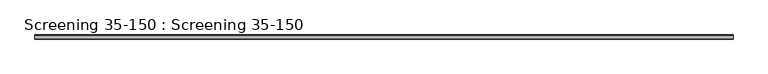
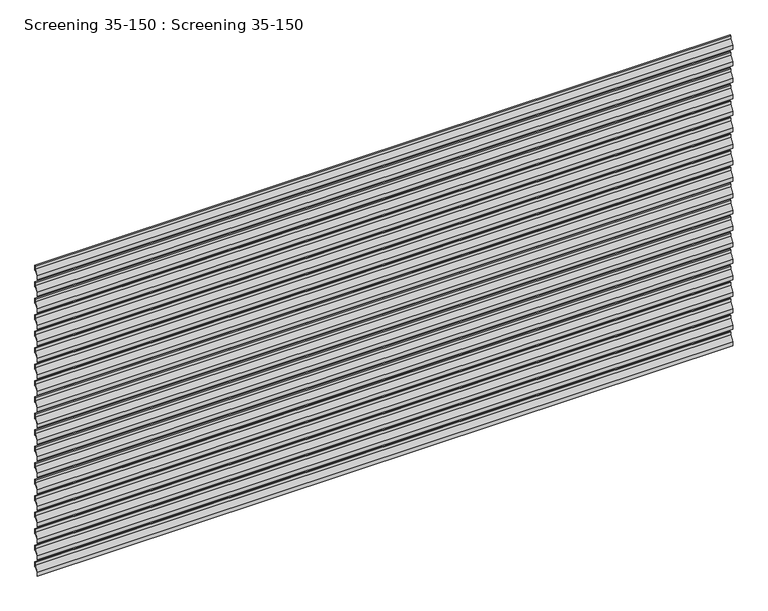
"""IFC4 building model written with IfcOpenShell, lengths in millimetres: plate geometry, Screening 35-150 : Screening 35-150."""

from ifc_helpers import new_model, si_unit, frame, origin, place, context, project, spatial, polyline, outline, extrude, source, transform, mapped, element, save


def screening_35_150_screening_35_150_a8d9859b(model_context):
    return source(origin(), model_context, "Body", "SweptSolid", [
        extrude(outline(polyline([(-34.9638304, 2712.1), (-34.9638304, 2748.1958995), (-4.35, 2791.9800402), (-4.35, 2819.1451224), (0.0, 2823.4298892), (0.0, 2776.6482493), (-13.0819089, 2776.6482493), (-33.4, 2747.5767062), (-33.4, 2712.1), (-34.9638304, 2712.1)])), frame((-3000.0, 0.0, 0.0), z_axis=(1.0, 0.0, 0.0), x_axis=(0.0, 1.0, 0.0)), (0.0, 0.0, 1.0), 6000.0),
        extrude(outline(polyline([(-34.9638304, 2562.1), (-34.9638304, 2598.1958995), (-4.35, 2641.9800402), (-4.35, 2669.1451224), (0.0, 2673.4298892), (0.0, 2626.6482493), (-13.0819089, 2626.6482493), (-33.4, 2597.5767062), (-33.4, 2562.1), (-34.9638304, 2562.1)])), frame((-3000.0, 0.0, 0.0), z_axis=(1.0, 0.0, 0.0), x_axis=(0.0, 1.0, 0.0)), (0.0, 0.0, 1.0), 6000.0),
        extrude(outline(polyline([(-34.9638304, 2412.1), (-34.9638304, 2448.1958995), (-4.35, 2491.9800402), (-4.35, 2519.1451224), (0.0, 2523.4298892), (0.0, 2476.6482493), (-13.0819089, 2476.6482493), (-33.4, 2447.5767062), (-33.4, 2412.1), (-34.9638304, 2412.1)])), frame((-3000.0, 0.0, 0.0), z_axis=(1.0, 0.0, 0.0), x_axis=(0.0, 1.0, 0.0)), (0.0, 0.0, 1.0), 6000.0),
        extrude(outline(polyline([(-34.9638304, 2262.1), (-34.9638304, 2298.1958995), (-4.35, 2341.9800402), (-4.35, 2369.1451224), (0.0, 2373.4298892), (0.0, 2326.6482493), (-13.0819089, 2326.6482493), (-33.4, 2297.5767062), (-33.4, 2262.1), (-34.9638304, 2262.1)])), frame((-3000.0, 0.0, 0.0), z_axis=(1.0, 0.0, 0.0), x_axis=(0.0, 1.0, 0.0)), (0.0, 0.0, 1.0), 6000.0),
        extrude(outline(polyline([(-34.9638304, 2112.1), (-34.9638304, 2148.1958995), (-4.35, 2191.9800402), (-4.35, 2219.1451224), (0.0, 2223.4298892), (0.0, 2176.6482493), (-13.0819089, 2176.6482493), (-33.4, 2147.5767062), (-33.4, 2112.1), (-34.9638304, 2112.1)])), frame((-3000.0, 0.0, 0.0), z_axis=(1.0, 0.0, 0.0), x_axis=(0.0, 1.0, 0.0)), (0.0, 0.0, 1.0), 6000.0),
        extrude(outline(polyline([(-34.9638304, 1962.1), (-34.9638304, 1998.1958995), (-4.35, 2041.9800402), (-4.35, 2069.1451224), (0.0, 2073.4298892), (0.0, 2026.6482493), (-13.0819089, 2026.6482493), (-33.4, 1997.5767062), (-33.4, 1962.1), (-34.9638304, 1962.1)])), frame((-3000.0, 0.0, 0.0), z_axis=(1.0, 0.0, 0.0), x_axis=(0.0, 1.0, 0.0)), (0.0, 0.0, 1.0), 6000.0),
        extrude(outline(polyline([(-34.9638304, 1812.1), (-34.9638304, 1848.1958995), (-4.35, 1891.9800402), (-4.35, 1919.1451224), (0.0, 1923.4298892), (0.0, 1876.6482493), (-13.0819089, 1876.6482493), (-33.4, 1847.5767062), (-33.4, 1812.1), (-34.9638304, 1812.1)])), frame((-3000.0, 0.0, 0.0), z_axis=(1.0, 0.0, 0.0), x_axis=(0.0, 1.0, 0.0)), (0.0, 0.0, 1.0), 6000.0),
        extrude(outline(polyline([(-34.9638304, 1662.1), (-34.9638304, 1698.1958995), (-4.35, 1741.9800402), (-4.35, 1769.1451224), (0.0, 1773.4298892), (0.0, 1726.6482493), (-13.0819089, 1726.6482493), (-33.4, 1697.5767062), (-33.4, 1662.1), (-34.9638304, 1662.1)])), frame((-3000.0, 0.0, 0.0), z_axis=(1.0, 0.0, 0.0), x_axis=(0.0, 1.0, 0.0)), (0.0, 0.0, 1.0), 6000.0),
        extrude(outline(polyline([(-34.9638304, 1512.1), (-34.9638304, 1548.1958995), (-4.35, 1591.9800402), (-4.35, 1619.1451224), (0.0, 1623.4298892), (0.0, 1576.6482493), (-13.0819089, 1576.6482493), (-33.4, 1547.5767062), (-33.4, 1512.1), (-34.9638304, 1512.1)])), frame((-3000.0, 0.0, 0.0), z_axis=(1.0, 0.0, 0.0), x_axis=(0.0, 1.0, 0.0)), (0.0, 0.0, 1.0), 6000.0),
        extrude(outline(polyline([(-34.9638304, 1362.1), (-34.9638304, 1398.1958995), (-4.35, 1441.9800402), (-4.35, 1469.1451224), (0.0, 1473.4298892), (0.0, 1426.6482493), (-13.0819089, 1426.6482493), (-33.4, 1397.5767062), (-33.4, 1362.1), (-34.9638304, 1362.1)])), frame((-3000.0, 0.0, 0.0), z_axis=(1.0, 0.0, 0.0), x_axis=(0.0, 1.0, 0.0)), (0.0, 0.0, 1.0), 6000.0),
        extrude(outline(polyline([(-34.9638304, 1212.1), (-34.9638304, 1248.1958995), (-4.35, 1291.9800402), (-4.35, 1319.1451224), (0.0, 1323.4298892), (0.0, 1276.6482493), (-13.0819089, 1276.6482493), (-33.4, 1247.5767062), (-33.4, 1212.1), (-34.9638304, 1212.1)])), frame((-3000.0, 0.0, 0.0), z_axis=(1.0, 0.0, 0.0), x_axis=(0.0, 1.0, 0.0)), (0.0, 0.0, 1.0), 6000.0),
        extrude(outline(polyline([(-34.9638304, 1062.1), (-34.9638304, 1098.1958995), (-4.35, 1141.9800402), (-4.35, 1169.1451224), (0.0, 1173.4298892), (0.0, 1126.6482493), (-13.0819089, 1126.6482493), (-33.4, 1097.5767062), (-33.4, 1062.1), (-34.9638304, 1062.1)])), frame((-3000.0, 0.0, 0.0), z_axis=(1.0, 0.0, 0.0), x_axis=(0.0, 1.0, 0.0)), (0.0, 0.0, 1.0), 6000.0),
        extrude(outline(polyline([(-34.9638304, 912.1), (-34.9638304, 948.1958995), (-4.35, 991.9800402), (-4.35, 1019.1451224), (0.0, 1023.4298892), (0.0, 976.6482493), (-13.0819089, 976.6482493), (-33.4, 947.5767062), (-33.4, 912.1), (-34.9638304, 912.1)])), frame((-3000.0, 0.0, 0.0), z_axis=(1.0, 0.0, 0.0), x_axis=(0.0, 1.0, 0.0)), (0.0, 0.0, 1.0), 6000.0),
        extrude(outline(polyline([(-34.9638304, 762.1), (-34.9638304, 798.1958995), (-4.35, 841.9800402), (-4.35, 869.1451224), (0.0, 873.4298892), (0.0, 826.6482493), (-13.0819089, 826.6482493), (-33.4, 797.5767062), (-33.4, 762.1), (-34.9638304, 762.1)])), frame((-3000.0, 0.0, 0.0), z_axis=(1.0, 0.0, 0.0), x_axis=(0.0, 1.0, 0.0)), (0.0, 0.0, 1.0), 6000.0),
        extrude(outline(polyline([(-34.9638304, 612.1), (-34.9638304, 648.1958995), (-4.35, 691.9800402), (-4.35, 719.1451224), (0.0, 723.4298892), (0.0, 676.6482493), (-13.0819089, 676.6482493), (-33.4, 647.5767062), (-33.4, 612.1), (-34.9638304, 612.1)])), frame((-3000.0, 0.0, 0.0), z_axis=(1.0, 0.0, 0.0), x_axis=(0.0, 1.0, 0.0)), (0.0, 0.0, 1.0), 6000.0),
        extrude(outline(polyline([(-34.9638304, 462.1), (-34.9638304, 498.1958995), (-4.35, 541.9800402), (-4.35, 569.1451224), (0.0, 573.4298892), (0.0, 526.6482493), (-13.0819089, 526.6482493), (-33.4, 497.5767062), (-33.4, 462.1), (-34.9638304, 462.1)])), frame((-3000.0, 0.0, 0.0), z_axis=(1.0, 0.0, 0.0), x_axis=(0.0, 1.0, 0.0)), (0.0, 0.0, 1.0), 6000.0),
        extrude(outline(polyline([(-34.9638304, 312.1), (-34.9638304, 348.1958995), (-4.35, 391.9800402), (-4.35, 419.1451224), (0.0, 423.4298892), (0.0, 376.6482493), (-13.0819089, 376.6482493), (-33.4, 347.5767062), (-33.4, 312.1), (-34.9638304, 312.1)])), frame((-3000.0, 0.0, 0.0), z_axis=(1.0, 0.0, 0.0), x_axis=(0.0, 1.0, 0.0)), (0.0, 0.0, 1.0), 6000.0),
        extrude(outline(polyline([(-34.9638304, 162.1), (-34.9638304, 198.1958995), (-4.35, 241.9800402), (-4.35, 269.1451224), (0.0, 273.4298892), (0.0, 226.6482493), (-13.0819089, 226.6482493), (-33.4, 197.5767062), (-33.4, 162.1), (-34.9638304, 162.1)])), frame((-3000.0, 0.0, 0.0), z_axis=(1.0, 0.0, 0.0), x_axis=(0.0, 1.0, 0.0)), (0.0, 0.0, 1.0), 6000.0),
        extrude(outline(polyline([(-34.9638304, 12.1), (-34.9638304, 48.1958995), (-4.35, 91.9800402), (-4.35, 119.1451224), (0.0, 123.4298892), (0.0, 76.6482493), (-13.0819089, 76.6482493), (-33.4, 47.5767062), (-33.4, 12.1), (-34.9638304, 12.1)])), frame((-3000.0, 0.0, 0.0), z_axis=(1.0, 0.0, 0.0), x_axis=(0.0, 1.0, 0.0)), (0.0, 0.0, 1.0), 6000.0),
    ])


if __name__ == "__main__":
    model = new_model("IFC4")
    model_context = context("Model", 3, world=origin())
    ifc_project = project(units=[si_unit("LENGTHUNIT", "METRE", prefix="MILLI")], contexts=[model_context])
    site = spatial("IfcSite", under=ifc_project)
    building = spatial("IfcBuilding", under=site)
    placement = place(None, origin())
    screening_35_150_screening_35_150_shape = screening_35_150_screening_35_150_a8d9859b(model_context)
    element("IfcPlate", 1, ObjectType="Screening 35-150 : Screening 35-150", at=placement, inside=building, context=model_context, shape_type="MappedRepresentation", body=[
        mapped(screening_35_150_screening_35_150_shape, transform((0.0, 0.0, 0.0), x_axis=(1.0, 0.0, 0.0), y_axis=(0.0, 1.0, 0.0), z_axis=(0.0, 0.0, 1.0))),
    ])
    save(model, "model.ifc")
